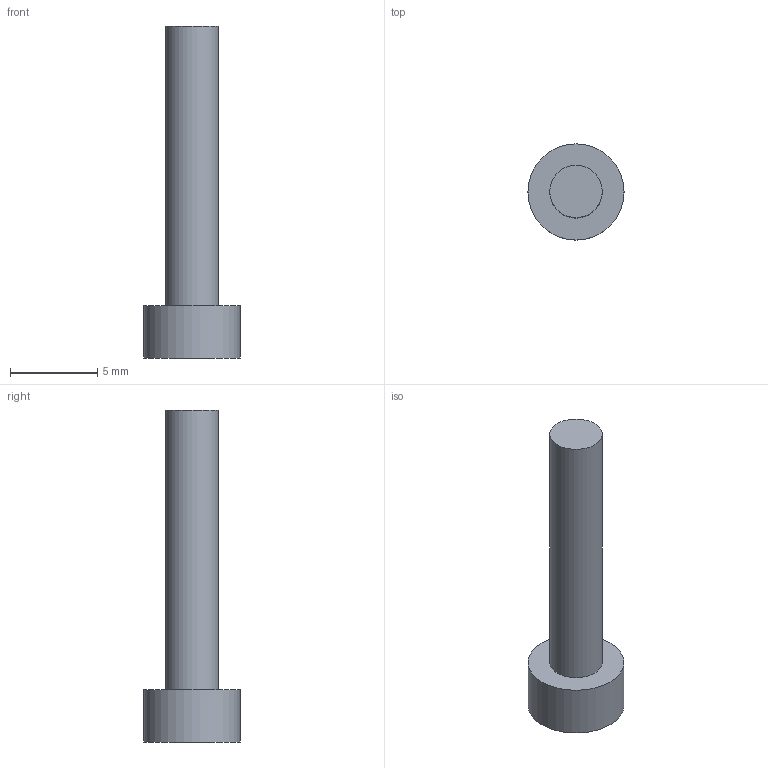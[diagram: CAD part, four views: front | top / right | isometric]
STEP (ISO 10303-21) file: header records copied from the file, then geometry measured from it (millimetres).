
FILE_DESCRIPTION(('Open CASCADE Model'),'2;1');
FILE_NAME('Open CASCADE Shape Model','2026-09-20T04:35:33',('Author'),( 'Open CASCADE'),'Open CASCADE STEP processor 8.0','Open CASCADE 8.0' ,'Unknown');
FILE_SCHEMA(('AP242_MANAGED_MODEL_BASED_3D_ENGINEERING_MIM_LF {1 0 10303 442 1 1 4 }' ));
Length unit declared in the file: millimetre
Products named in the file (1): Open CASCADE STEP translator 8.0 14
Bounding box: 5.5 x 5.5 x 19 mm (x, y, z)
Volume: 184.4 mm3; surface area: 250.1 mm2
Topology: 1 solids, 1 shells, 5 faces, 6 edges, 4 vertices
Faces by surface type: plane 3, cylinder 2
Full cylindrical faces by diameter (mm): 3 x1, 5.5 x1
Entity records: 192 total; most frequent: DIRECTION 34, CARTESIAN_POINT 28, ORIENTED_EDGE 12, PCURVE 12, DEFINITIONAL_REPRESENTATION 12, AXIS2_PLACEMENT_3D 10, LINE 10, VECTOR 10
